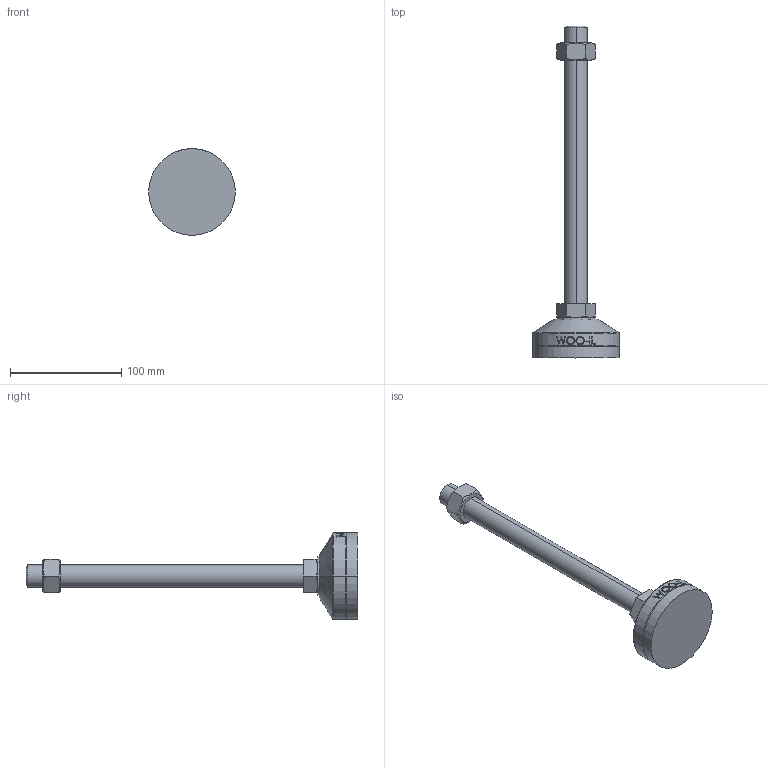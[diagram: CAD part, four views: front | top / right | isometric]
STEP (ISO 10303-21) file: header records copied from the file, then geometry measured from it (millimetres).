
FILE_DESCRIPTION (( 'STEP AP214' ), '1' );
FILE_NAME ('MFR78-M20-250.step', '2021-01-13T05:39:44', ( '' ), ( '' ), 'SwSTEP 2.0', 'SolidWorks 2019', '' );
FILE_SCHEMA (( 'AUTOMOTIVE_DESIGN' ));
Length unit declared in the file: millimetre
Products named in the file (2): MFR78-M20-250
Bounding box: 78 x 299 x 78 mm (x, y, z)
Volume: 239101.3 mm3; surface area: 38181.1 mm2
Topology: 3 solids, 3 shells, 102 faces, 235 edges, 150 vertices
Faces by surface type: plane 48, cylinder 18, bspline 16, cone 14, torus 6
Entity records: 4428 total; most frequent: CARTESIAN_POINT 2173, ORIENTED_EDGE 470, DIRECTION 415, EDGE_CURVE 235, AXIS2_PLACEMENT_3D 158, VERTEX_POINT 150, EDGE_LOOP 115, ADVANCED_FACE 102
